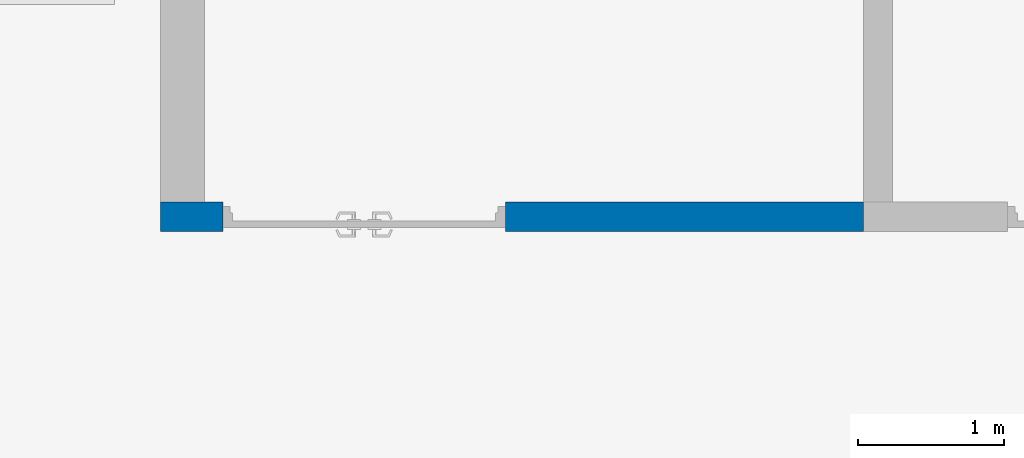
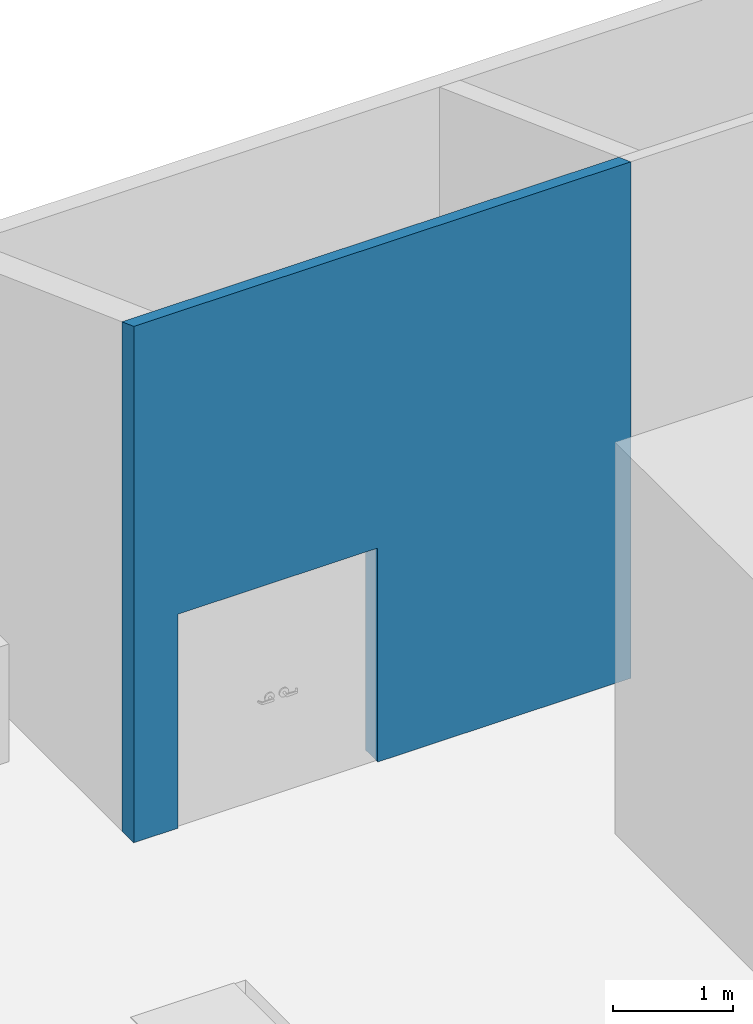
# One storey, part 5 of 23: 1 wall, 1 opening.
"""IFC2X3 building model written with IfcOpenShell, lengths in millimetres."""

from ifc_helpers import new_model, entity, si_unit, converted_unit, direction, frame, frame_2d, origin, place, context, subcontext, project, spatial, polyline, rectangle, extrude, clip, bounded_halfspace, material, layer, layer_set, layer_usage, type_object, element, save


model = new_model("IFC2X3")

# Units and contexts
model_context = context("Model", 3, precision=0.01, world=origin(), true_north=direction((6.123031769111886e-17, 1.0)))
body_context = subcontext(model_context, "Body", "Model", "MODEL_VIEW")
ifc_project = project(units=[si_unit("LENGTHUNIT", "METRE", prefix="MILLI"), converted_unit("PLANEANGLEUNIT", "DEGREE", entity("IfcPlaneAngleMeasure", 0.017453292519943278), si_unit("PLANEANGLEUNIT", "RADIAN"), dimensions=[0, 0, 0, 0, 0, 0, 0]), si_unit("AREAUNIT", "SQUARE_METRE")], contexts=[model_context])

# Site, building, storey
site_placement = place(None, frame((7776.576483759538, 118.3519876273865, 0.0)))
site = spatial("IfcSite", under=ifc_project, at=site_placement, Name="Default", CompositionType="ELEMENT")
building_placement = place(site_placement, origin())
building = spatial("IfcBuilding", under=site, at=building_placement, Name="Bygning (endres i Project Information)", CompositionType="ELEMENT")
storey_placement = place(building_placement, frame((0.0, 0.0, 19000.0)))
storey = spatial("IfcBuildingStorey", under=building, at=storey_placement, Name="Plan 01", CompositionType="ELEMENT", Elevation=19000.0)

# Wall, opening
ifc_material = material(Name="Default Wall")
ifc_layer = layer(ifc_material, 200.0)
ifc_layer_set = layer_set([ifc_layer], Name="Basic Wall:Generic - 200mm")
ifc_layer_usage = layer_usage(ifc_layer_set, "AXIS2", "NEGATIVE", 100.0)
wall_type = type_object("IfcWallType", Name="Basic Wall:Generic - 200mm", PredefinedType="STANDARD", material=ifc_layer_set)
wall_placement = place(storey_placement, frame((26074.00137486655, 31197.757305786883, 0.0), z_axis=(0.0, 0.0, 1.0), x_axis=(-1.0, 0.0, 0.0)))
wall = element("IfcWallStandardCase", 1, at=wall_placement, inside=storey, type_object=wall_type, material=ifc_layer_usage, Name="Basic Wall:Generic - 200mm", ObjectType="Basic Wall:Generic - 200mm", context=body_context, shape_type="Clipping", body=[
    clip(extrude(rectangle(XDim=4799.999999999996, YDim=200.00000000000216, at=frame_2d((2399.9999999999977, -2.0321522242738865e-12), x_axis=(1.0, 0.0))), origin(), (0.0, 0.0, 1.0), 5272.392638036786), bounded_halfspace(frame((0.0, -100.0, 5198.7730061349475), z_axis=(0.0, -0.34543854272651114, 0.9384413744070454), x_axis=(1.0, 0.0, 0.0)), False, frame((0.0, -100.0, 5198.7730061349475)), polyline([(0.0, 0.0), (4500.0, 0.0), (4800.0, 0.0), (4800.0, 200.0), (0.0, 200.0), (0.0, 0.0)]))),
])
opening_placement = place(wall_placement, frame((2444.799999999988, -100.0, 0.0)))
element("IfcOpeningElement", 2, at=opening_placement, cuts=wall, Name="Double Door Simple:1930mm x 2184mm - ion alu:1", ObjectType="Opening", context=body_context, shape_type="SweptSolid", body=[
    extrude(rectangle(XDim=1930.4000000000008, YDim=2184.4, at=frame_2d((1092.2000000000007, 965.2000000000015), x_axis=(0.0, -1.0))), frame((0.0, 0.0, 0.0), z_axis=(0.0, 1.0, 0.0), x_axis=(0.0, 0.0, 1.0)), (0.0, 0.0, 1.0), 200.0),
])

save(model, "model.ifc")
